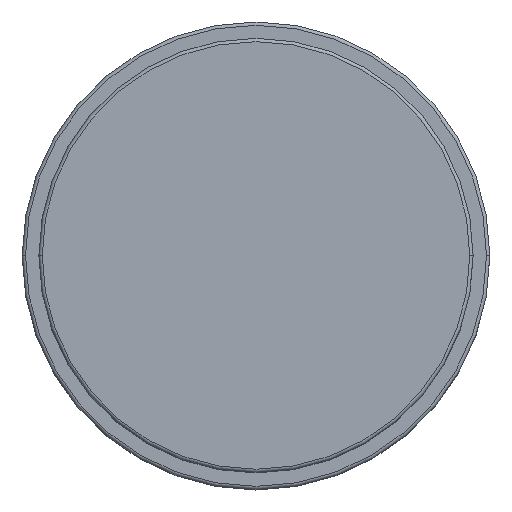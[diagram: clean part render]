
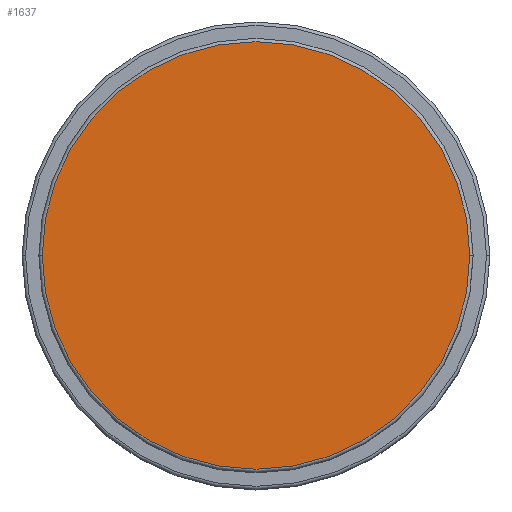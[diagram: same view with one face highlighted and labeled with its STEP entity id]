
A CAD part, top view. The second image highlights one B-rep face of the part: STEP entity #1637.
In plain terms, the highlighted planar face has unit normal (0, 0, 1).
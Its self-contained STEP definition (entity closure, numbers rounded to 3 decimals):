
#5 = DIRECTION ( 'NONE',  ( 1., 0., 0. ) ) ;
#77 = ORIENTED_EDGE ( 'NONE', *, *, #1280, .T. ) ;
#175 = CARTESIAN_POINT ( 'NONE',  ( 0., 0., 62. ) ) ;
#344 = PLANE ( 'NONE',  #1477 ) ;
#364 = DIRECTION ( 'NONE',  ( 0., 0., 1. ) ) ;
#378 = VERTEX_POINT ( 'NONE', #1198 ) ;
#384 = FACE_OUTER_BOUND ( 'NONE', #1602, .T. ) ;
#646 = CARTESIAN_POINT ( 'NONE',  ( 0., 0., 62. ) ) ;
#808 = AXIS2_PLACEMENT_3D ( 'NONE', #1613, #364, #973 ) ;
#824 = DIRECTION ( 'NONE',  ( 1., 0., 0. ) ) ;
#966 = DIRECTION ( 'NONE',  ( 0., 0., 1. ) ) ;
#973 = DIRECTION ( 'NONE',  ( 1., 0., 0. ) ) ;
#1021 = CIRCLE ( 'NONE', #1806, 32. ) ;
#1165 = VERTEX_POINT ( 'NONE', #1579 ) ;
#1198 = CARTESIAN_POINT ( 'NONE',  ( -32., 0., 62. ) ) ;
#1280 = EDGE_CURVE ( 'NONE', #378, #1165, #1021, .T. ) ;
#1477 = AXIS2_PLACEMENT_3D ( 'NONE', #175, #966, #5 ) ;
#1497 = ORIENTED_EDGE ( 'NONE', *, *, #1723, .T. ) ;
#1562 = CIRCLE ( 'NONE', #808, 32. ) ;
#1579 = CARTESIAN_POINT ( 'NONE',  ( 32., 0., 62. ) ) ;
#1602 = EDGE_LOOP ( 'NONE', ( #1497, #77 ) ) ;
#1613 = CARTESIAN_POINT ( 'NONE',  ( 0., 0., 62. ) ) ;
#1637 = ADVANCED_FACE ( 'NONE', ( #384 ), #344, .T. ) ;
#1723 = EDGE_CURVE ( 'NONE', #1165, #378, #1562, .T. ) ;
#1743 = DIRECTION ( 'NONE',  ( 0., 0., 1. ) ) ;
#1806 = AXIS2_PLACEMENT_3D ( 'NONE', #646, #1743, #824 ) ;
